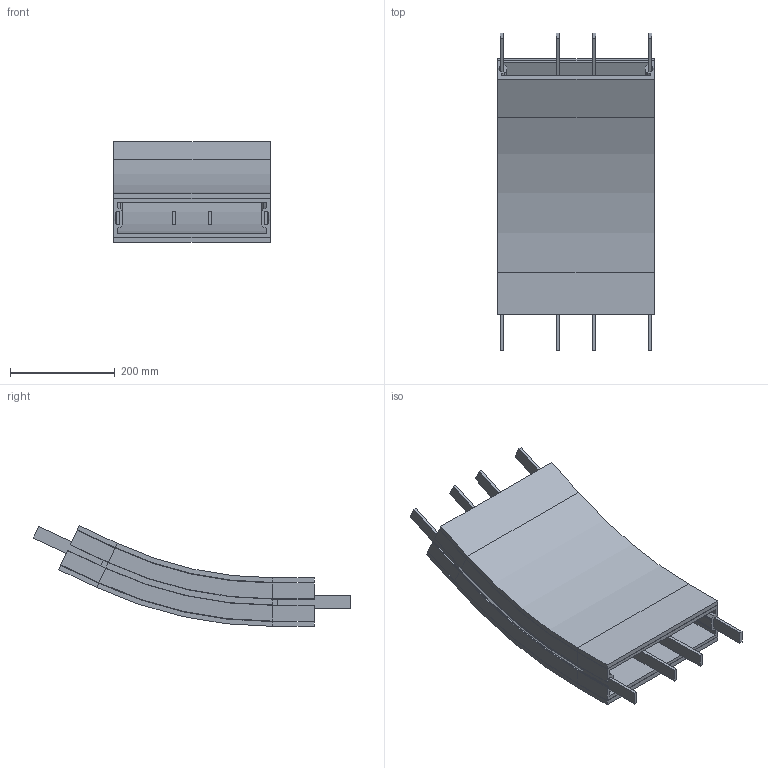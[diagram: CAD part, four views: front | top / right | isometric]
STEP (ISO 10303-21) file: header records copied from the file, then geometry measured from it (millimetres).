
FILE_DESCRIPTION (( 'STEP AP214' ), '1' );
FILE_NAME ('FBBV 25A300R750L80L80.00.step', '2026-05-29T10:33:35', ( '' ), ( '' ), 'SwSTEP 2.0', 'SolidWorks 2024', '' );
FILE_SCHEMA (( 'AUTOMOTIVE_DESIGN' ));
Length unit declared in the file: millimetre
Products named in the file (1): FBBV 25A300R750L80L80.00
Bounding box: 300 x 608.19 x 192.72 mm (x, y, z)
Volume: 5429661.5 mm3; surface area: 1447443 mm2
Topology: 11 solids, 11 shells, 375 faces, 845 edges, 492 vertices
Faces by surface type: plane 278, cone 66, cylinder 26, torus 5
Entity records: 10191 total; most frequent: DIRECTION 1724, CARTESIAN_POINT 1713, ORIENTED_EDGE 1690, EDGE_CURVE 845, VECTOR 718, LINE 718, AXIS2_PLACEMENT_3D 503, VERTEX_POINT 492
